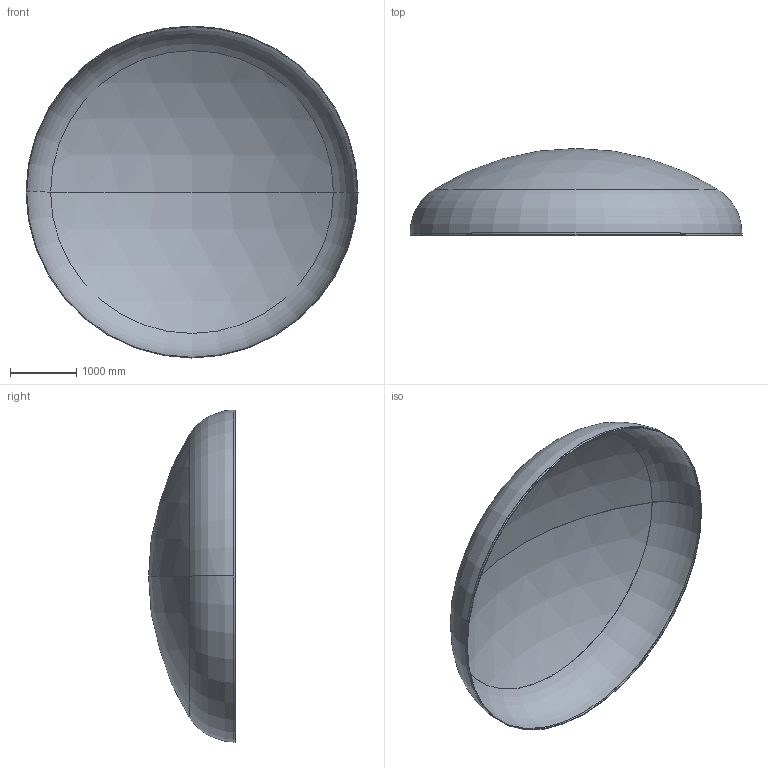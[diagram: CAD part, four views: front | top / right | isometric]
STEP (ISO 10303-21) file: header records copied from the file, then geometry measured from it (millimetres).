
FILE_DESCRIPTION (( 'STEP AP203' ), '1' );
FILE_NAME ('DIN 28013 Korbbogenform_-_Boden DIN 28013 - 5000 x 30 - I - s=10.step', '2016-07-02T00:03:48', ( '' ), ( '' ), 'SwSTEP 2.0', 'SolidWorks 2013', '' );
FILE_SCHEMA (( 'CONFIG_CONTROL_DESIGN' ));
Length unit declared in the file: millimetre
Products named in the file (1): DIN 28013 Korbbogenform_-_Boden DIN 28013 - 5000 x 30 - I - s=10
Bounding box: 5000 x 1306.05 x 5000 mm (x, y, z)
Volume: 275950964.6 mm3; surface area: 55347145 mm2
Topology: 1 solids, 1 shells, 13 faces, 24 edges, 14 vertices
Faces by surface type: torus 4, cylinder 4, sphere 4, plane 1
Entity records: 407 total; most frequent: DIRECTION 72, CARTESIAN_POINT 52, ORIENTED_EDGE 48, AXIS2_PLACEMENT_3D 34, EDGE_CURVE 24, CIRCLE 20, VERTEX_POINT 14, EDGE_LOOP 14
